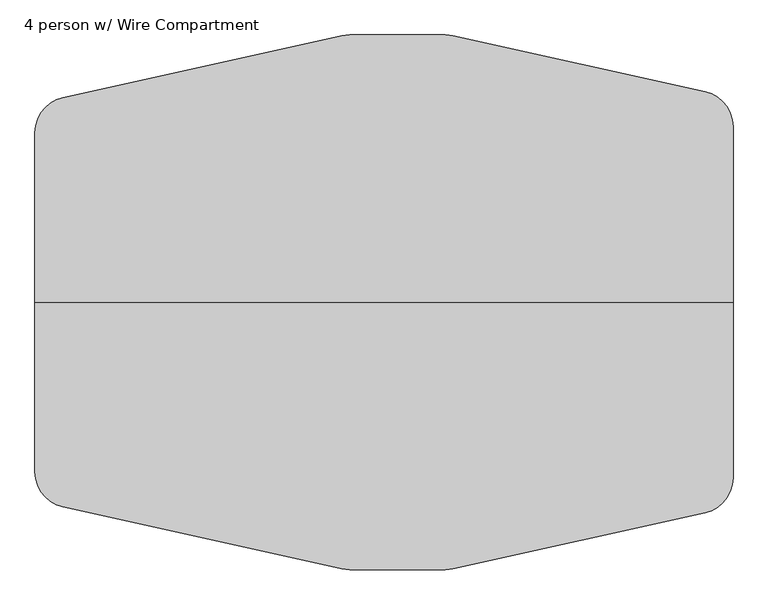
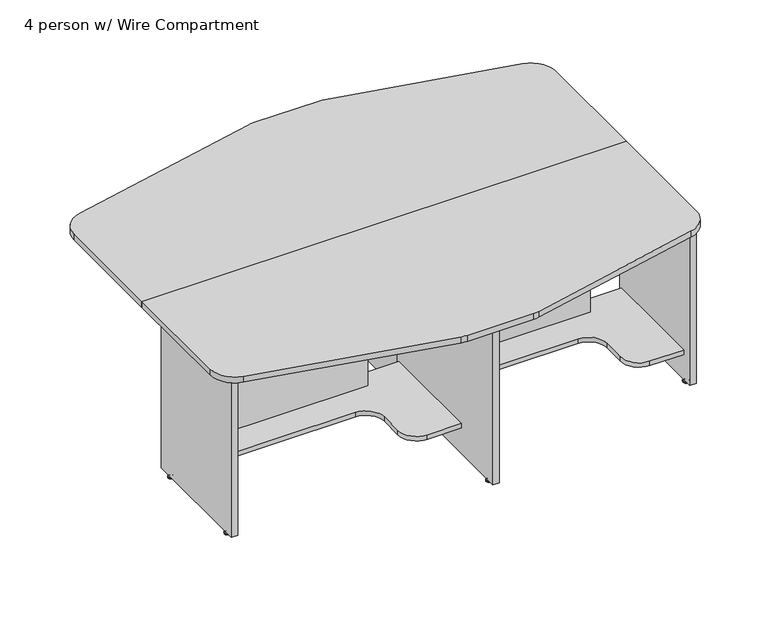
"""IFC4 building model written with IfcOpenShell, lengths in millimetres: furniture geometry, Nova Solutions - Collaboration Table - Boat_4-6 person : 4 person w/ Wire Compartment."""

from ifc_helpers import new_model, si_unit, point, frame, frame_2d, origin, place, context, project, spatial, polyline, circle_curve, ellipse_curve, trimmed, segment, composite_curve, outline, extrude, source, transform, mapped, element, save
from ifc_brep_helpers import plane_surface, cylinder_surface, revolved_surface, advanced_brep


def furniture_4_person_w_wire_compartment_91efd73a(model_context):
    return source(origin(), model_context, "Body", "SolidModel", [
        advanced_brep(
        [(6.6776506, 631.3859375, 11.1125), (0.0, 631.3859375, 11.1125), (-6.6776506, 631.3859375, 11.1125), (6.6776506, 631.3859375, 9.525), (-6.6776506, 631.3859375, 9.525), (11.8855135, 631.3859375, 4.7748687), (-11.8855135, 631.3859375, 4.7748687), (12.7466506, 631.3859375, 3.989419), (-12.7466506, 631.3859375, 3.989419), (12.7466506, 631.3859375, 3.175), (-12.7466506, 631.3859375, 3.175), (11.8959119, 631.3859375, 0.0), (-11.8959119, 631.3859375, 0.0), (0.0, 631.3859375, 0.0)],
        [
            (0, 1),
            (1, 2),
            (2, 0, circle_curve(frame((0.0, 631.3859375, 11.1125), z_axis=(0.0, 0.0, 1.0), x_axis=(-1.0, 0.0, 0.0)), 6.6776506)),
            (0, 2, circle_curve(frame((0.0, 631.3859375, 11.1125), z_axis=(0.0, 0.0, 1.0), x_axis=(-1.0, 0.0, 0.0)), 6.6776506)),
            (3, 0),
            (2, 4),
            (4, 3, circle_curve(frame((0.0, 631.3859375, 9.525), z_axis=(0.0, 0.0, 1.0), x_axis=(-1.0, 0.0, 0.0)), 6.6776506)),
            (3, 4, circle_curve(frame((0.0, 631.3859375, 9.525), z_axis=(0.0, 0.0, 1.0), x_axis=(-1.0, 0.0, 0.0)), 6.6776506)),
            (5, 3, circle_curve(frame((12.9320627, 631.3859375, 11.1521822), z_axis=(0.0, 1.0, 0.0), x_axis=(-1.0, 0.0, 0.0)), 6.462615)),
            (4, 6, circle_curve(frame((-12.9320627, 631.3859375, 11.1521822), z_axis=(0.0, 1.0, 0.0), x_axis=(1.0, 0.0, 0.0)), 6.462615)),
            (6, 5, circle_curve(frame((0.0, 631.3859375, 4.7748687), z_axis=(0.0, 0.0, 1.0), x_axis=(-1.0, 0.0, 0.0)), 11.8855135)),
            (5, 6, circle_curve(frame((0.0, 631.3859375, 4.7748687), z_axis=(0.0, 0.0, 1.0), x_axis=(-1.0, 0.0, 0.0)), 11.8855135)),
            (7, 5, circle_curve(frame((11.7124632, 631.3859375, 3.7203591), z_axis=(0.0, -1.0, 0.0), x_axis=(-1.0, 0.0, 0.0)), 1.0686145)),
            (6, 8, circle_curve(frame((-11.7124632, 631.3859375, 3.7203591), z_axis=(0.0, -1.0, 0.0), x_axis=(1.0, 0.0, 0.0)), 1.0686145)),
            (8, 7, circle_curve(frame((0.0, 631.3859375, 3.989419), z_axis=(0.0, 0.0, 1.0), x_axis=(-1.0, 0.0, 0.0)), 12.7466506)),
            (7, 8, circle_curve(frame((0.0, 631.3859375, 3.989419), z_axis=(0.0, 0.0, 1.0), x_axis=(-1.0, 0.0, 0.0)), 12.7466506)),
            (9, 7),
            (8, 10),
            (10, 9, circle_curve(frame((0.0, 631.3859375, 3.175), z_axis=(0.0, 0.0, 1.0), x_axis=(-1.0, 0.0, 0.0)), 12.7466506)),
            (9, 10, circle_curve(frame((0.0, 631.3859375, 3.175), z_axis=(0.0, 0.0, 1.0), x_axis=(-1.0, 0.0, 0.0)), 12.7466506)),
            (11, 9),
            (10, 12),
            (12, 11, circle_curve(frame((0.0, 631.3859375, 0.0), z_axis=(0.0, 0.0, 1.0), x_axis=(-1.0, 0.0, 0.0)), 11.8959119)),
            (11, 12, circle_curve(frame((0.0, 631.3859375, 0.0), z_axis=(0.0, 0.0, 1.0), x_axis=(-1.0, 0.0, 0.0)), 11.8959119)),
            (13, 11),
            (12, 13),
        ],
        [
            plane_surface(frame((0.0, 631.3859375, 11.1125), z_axis=(0.0, 0.0, 1.0), x_axis=(-1.0, 0.0, 0.0))),
            cylinder_surface(frame((0.0, 631.3859375, 43.2095994), z_axis=(0.0, 0.0, -1.0), x_axis=(-1.0, 0.0, 0.0)), 6.6776506),
            revolved_surface(trimmed(ellipse_curve(frame((-12.9320627, 631.3859375, 11.1521822), z_axis=(0.0, 1.0, 0.0), x_axis=(1.0, 0.0, 0.0)), 6.462615, 6.462615), [point((-6.6776506, 631.3859375, 9.525))], [point((-11.8855135, 631.3859375, 4.7748687))], True, "CARTESIAN"), (0.0, 631.3859375, 43.2095994), (0.0, 0.0, -1.0)),
            revolved_surface(trimmed(ellipse_curve(frame((-11.7124632, 631.3859375, 3.7203591), z_axis=(0.0, -1.0, 0.0), x_axis=(1.0, 0.0, 0.0)), 1.0686145, 1.0686145), [point((-11.8855135, 631.3859375, 4.7748687))], [point((-12.7466506, 631.3859375, 3.989419))], True, "CARTESIAN"), (0.0, 631.3859375, 43.2095994), (0.0, 0.0, -1.0)),
            cylinder_surface(frame((0.0, 631.3859375, 43.2095994), z_axis=(0.0, 0.0, -1.0), x_axis=(-1.0, 0.0, 0.0)), 12.7466506),
            revolved_surface(polyline([(-12.7466506, 631.3859375, 3.175), (-11.8959119, 631.3859375, 0.0)]), (0.0, 631.3859375, 43.2095994), (0.0, 0.0, -1.0)),
            plane_surface(frame((0.0, 631.3859375, 0.0), z_axis=(0.0, 0.0, -1.0), x_axis=(-1.0, 0.0, 0.0))),
        ],
        [
            (0, [[1, 2, 3]]),
            (0, [[-2, -1, 4]]),
            (1, [[5, -3, 6, 7]]),
            (1, [[-6, -4, -5, 8]]),
            (2, [[9, -7, 10, 11]]),
            (2, [[-10, -8, -9, 12]]),
            (3, [[13, -11, 14, 15]]),
            (3, [[-14, -12, -13, 16]]),
            (4, [[17, -15, 18, 19]]),
            (4, [[-18, -16, -17, 20]]),
            (5, [[21, -19, 22, 23]]),
            (5, [[-22, -20, -21, 24]]),
            (6, [[25, -23, 26]]),
            (6, [[-26, -24, -25]]),
        ],
    ),
        advanced_brep(
        [(6.6776506, 50.4140625, 11.1125), (0.0, 50.4140625, 11.1125), (-6.6776506, 50.4140625, 11.1125), (6.6776506, 50.4140625, 9.525), (-6.6776506, 50.4140625, 9.525), (11.8855135, 50.4140625, 4.7748687), (-11.8855135, 50.4140625, 4.7748687), (12.7466506, 50.4140625, 3.989419), (-12.7466506, 50.4140625, 3.989419), (12.7466506, 50.4140625, 3.175), (-12.7466506, 50.4140625, 3.175), (11.8959119, 50.4140625, 0.0), (-11.8959119, 50.4140625, 0.0), (0.0, 50.4140625, 0.0)],
        [
            (0, 1),
            (1, 2),
            (2, 0, circle_curve(frame((0.0, 50.4140625, 11.1125), z_axis=(0.0, 0.0, 1.0), x_axis=(-1.0, 0.0, 0.0)), 6.6776506)),
            (0, 2, circle_curve(frame((0.0, 50.4140625, 11.1125), z_axis=(0.0, 0.0, 1.0), x_axis=(-1.0, 0.0, 0.0)), 6.6776506)),
            (3, 0),
            (2, 4),
            (4, 3, circle_curve(frame((0.0, 50.4140625, 9.525), z_axis=(0.0, 0.0, 1.0), x_axis=(-1.0, 0.0, 0.0)), 6.6776506)),
            (3, 4, circle_curve(frame((0.0, 50.4140625, 9.525), z_axis=(0.0, 0.0, 1.0), x_axis=(-1.0, 0.0, 0.0)), 6.6776506)),
            (5, 3, circle_curve(frame((12.9320627, 50.4140625, 11.1521822), z_axis=(0.0, 1.0, 0.0), x_axis=(-1.0, 0.0, 0.0)), 6.462615)),
            (4, 6, circle_curve(frame((-12.9320627, 50.4140625, 11.1521822), z_axis=(0.0, 1.0, 0.0), x_axis=(1.0, 0.0, 0.0)), 6.462615)),
            (6, 5, circle_curve(frame((0.0, 50.4140625, 4.7748687), z_axis=(0.0, 0.0, 1.0), x_axis=(-1.0, 0.0, 0.0)), 11.8855135)),
            (5, 6, circle_curve(frame((0.0, 50.4140625, 4.7748687), z_axis=(0.0, 0.0, 1.0), x_axis=(-1.0, 0.0, 0.0)), 11.8855135)),
            (7, 5, circle_curve(frame((11.7124632, 50.4140625, 3.7203591), z_axis=(0.0, -1.0, 0.0), x_axis=(-1.0, 0.0, 0.0)), 1.0686145)),
            (6, 8, circle_curve(frame((-11.7124632, 50.4140625, 3.7203591), z_axis=(0.0, -1.0, 0.0), x_axis=(1.0, 0.0, 0.0)), 1.0686145)),
            (8, 7, circle_curve(frame((0.0, 50.4140625, 3.989419), z_axis=(0.0, 0.0, 1.0), x_axis=(-1.0, 0.0, 0.0)), 12.7466506)),
            (7, 8, circle_curve(frame((0.0, 50.4140625, 3.989419), z_axis=(0.0, 0.0, 1.0), x_axis=(-1.0, 0.0, 0.0)), 12.7466506)),
            (9, 7),
            (8, 10),
            (10, 9, circle_curve(frame((0.0, 50.4140625, 3.175), z_axis=(0.0, 0.0, 1.0), x_axis=(-1.0, 0.0, 0.0)), 12.7466506)),
            (9, 10, circle_curve(frame((0.0, 50.4140625, 3.175), z_axis=(0.0, 0.0, 1.0), x_axis=(-1.0, 0.0, 0.0)), 12.7466506)),
            (11, 9),
            (10, 12),
            (12, 11, circle_curve(frame((0.0, 50.4140625, 0.0), z_axis=(0.0, 0.0, 1.0), x_axis=(-1.0, 0.0, 0.0)), 11.8959119)),
            (11, 12, circle_curve(frame((0.0, 50.4140625, 0.0), z_axis=(0.0, 0.0, 1.0), x_axis=(-1.0, 0.0, 0.0)), 11.8959119)),
            (13, 11),
            (12, 13),
        ],
        [
            plane_surface(frame((0.0, 50.4140625, 11.1125), z_axis=(0.0, 0.0, 1.0), x_axis=(-1.0, 0.0, 0.0))),
            cylinder_surface(frame((0.0, 50.4140625, 43.2095994), z_axis=(0.0, 0.0, -1.0), x_axis=(-1.0, 0.0, 0.0)), 6.6776506),
            revolved_surface(trimmed(ellipse_curve(frame((-12.9320627, 50.4140625, 11.1521822), z_axis=(0.0, 1.0, 0.0), x_axis=(1.0, 0.0, 0.0)), 6.462615, 6.462615), [point((-6.6776506, 50.4140625, 9.525))], [point((-11.8855135, 50.4140625, 4.7748687))], True, "CARTESIAN"), (0.0, 50.4140625, 43.2095994), (0.0, 0.0, -1.0)),
            revolved_surface(trimmed(ellipse_curve(frame((-11.7124632, 50.4140625, 3.7203591), z_axis=(0.0, -1.0, 0.0), x_axis=(1.0, 0.0, 0.0)), 1.0686145, 1.0686145), [point((-11.8855135, 50.4140625, 4.7748687))], [point((-12.7466506, 50.4140625, 3.989419))], True, "CARTESIAN"), (0.0, 50.4140625, 43.2095994), (0.0, 0.0, -1.0)),
            cylinder_surface(frame((0.0, 50.4140625, 43.2095994), z_axis=(0.0, 0.0, -1.0), x_axis=(-1.0, 0.0, 0.0)), 12.7466506),
            revolved_surface(polyline([(-12.7466506, 50.4140625, 3.175), (-11.8959119, 50.4140625, 0.0)]), (0.0, 50.4140625, 43.2095994), (0.0, 0.0, -1.0)),
            plane_surface(frame((0.0, 50.4140625, 0.0), z_axis=(0.0, 0.0, -1.0), x_axis=(-1.0, 0.0, 0.0))),
        ],
        [
            (0, [[1, 2, 3]]),
            (0, [[-2, -1, 4]]),
            (1, [[5, -3, 6, 7]]),
            (1, [[-6, -4, -5, 8]]),
            (2, [[9, -7, 10, 11]]),
            (2, [[-10, -8, -9, 12]]),
            (3, [[13, -11, 14, 15]]),
            (3, [[-14, -12, -13, 16]]),
            (4, [[17, -15, 18, 19]]),
            (4, [[-18, -16, -17, 20]]),
            (5, [[21, -19, 22, 23]]),
            (5, [[-22, -20, -21, 24]]),
            (6, [[25, -23, 26]]),
            (6, [[-26, -24, -25]]),
        ],
    ),
        extrude(outline(polyline([(12.85, 1.4), (-12.85, 1.4), (-12.85, 680.4), (12.85, 680.4), (12.85, 1.4)])), frame((0.0, 0.0, 15.6), z_axis=(0.0, 0.0, 1.0), x_axis=(1.0, 0.0, 0.0)), (0.0, 0.0, 1.0), 720.7),
        extrude(outline(composite_curve([segment(trimmed(circle_curve(frame_2d((-163.1227993, 656.4)), 101.6), [point((-185.1130641, 755.5916743))], [point((-163.1227993, 758.0))], False, "CARTESIAN"), True, "CONTINUOUS"), segment(polyline([(-163.1227993, 758.0), (108.0350272, 758.0)]), True, "CONTINUOUS"), segment(trimmed(circle_curve(frame_2d((108.0350272, 656.4)), 101.6), [point((108.0350272, 758.0))], [point((130.025292, 755.5916743))], False, "CARTESIAN"), True, "CONTINUOUS"), segment(polyline([(130.025292, 755.5916743), (844.6402648, 597.165349)]), True, "CONTINUOUS"), segment(trimmed(circle_curve(frame_2d((822.65, 497.9736747)), 101.6), [point((844.6402648, 597.165349))], [point((924.25, 497.9736747))], False, "CARTESIAN"), True, "CONTINUOUS"), segment(polyline([(924.25, 497.9736747), (924.25, 0.0), (-1055.45, 0.0), (-1055.45, 481.1)]), True, "CONTINUOUS"), segment(trimmed(circle_curve(frame_2d((-953.85, 481.1)), 101.6), [point((-1055.45, 481.1))], [point((-975.8402648, 580.2916743))], False, "CARTESIAN"), True, "CONTINUOUS"), segment(polyline([(-975.8402648, 580.2916743), (-185.1130641, 755.5916743)]), True, "CONTINUOUS")], self_intersect=False)), frame((0.0, 0.0, 736.3), z_axis=(0.0, 0.0, 1.0), x_axis=(1.0, 0.0, 0.0)), (0.0, 0.0, 1.0), 25.7),
        extrude(outline(polyline([(145.5, 12.85), (145.5, 726.15), (507.4, 726.15), (507.4, 897.15), (736.3, 897.15), (736.3, 12.85), (145.5, 12.85)])), frame((0.0, -88.6, 0.0), z_axis=(0.0, 1.0, 0.0), x_axis=(0.0, 0.0, 1.0)), (0.0, 0.0, 1.0), 19.2),
        extrude(outline(composite_curve([segment(polyline([(897.15, -457.2625), (757.35, -457.2625)]), True, "CONTINUOUS"), segment(trimmed(circle_curve(frame_2d((757.35, -381.0625)), 76.2), [point((757.35, -457.2625))], [point((681.15, -381.0625))], False, "CARTESIAN"), True, "CONTINUOUS"), segment(polyline([(681.15, -381.0625), (681.15, -286.6)]), True, "CONTINUOUS"), segment(trimmed(circle_curve(frame_2d((604.95, -286.6)), 76.2), [point((681.15, -286.6))], [point((604.95, -210.4))], True, "CARTESIAN"), True, "CONTINUOUS"), segment(polyline([(604.95, -210.4), (12.85, -210.4), (12.85, -14.1), (897.15, -14.1), (897.15, -457.2625)]), True, "CONTINUOUS")], self_intersect=False)), frame((0.0, 0.0, 126.3), z_axis=(0.0, 0.0, 1.0), x_axis=(1.0, 0.0, 0.0)), (0.0, 0.0, 1.0), 19.2),
        advanced_brep(
        [(916.6776506, -448.9859375, 11.1125), (903.3223494, -448.9859375, 11.1125), (910.0, -448.9859375, 11.1125), (916.6776506, -448.9859375, 9.525), (903.3223494, -448.9859375, 9.525), (921.8855135, -448.9859375, 4.7748687), (898.1144865, -448.9859375, 4.7748687), (922.7466506, -448.9859375, 3.989419), (897.2533494, -448.9859375, 3.989419), (922.7466506, -448.9859375, 3.175), (897.2533494, -448.9859375, 3.175), (921.8959119, -448.9859375, 0.0), (898.1040881, -448.9859375, 0.0), (910.0, -448.9859375, 0.0)],
        [
            (0, 1, circle_curve(frame((910.0, -448.9859375, 11.1125), z_axis=(0.0, 0.0, 1.0), x_axis=(-1.0, 0.0, 0.0)), 6.6776506)),
            (1, 2),
            (2, 0),
            (1, 0, circle_curve(frame((910.0, -448.9859375, 11.1125), z_axis=(0.0, 0.0, 1.0), x_axis=(-1.0, 0.0, 0.0)), 6.6776506)),
            (3, 4, circle_curve(frame((910.0, -448.9859375, 9.525), z_axis=(0.0, 0.0, 1.0), x_axis=(-1.0, 0.0, 0.0)), 6.6776506)),
            (4, 1),
            (0, 3),
            (4, 3, circle_curve(frame((910.0, -448.9859375, 9.525), z_axis=(0.0, 0.0, 1.0), x_axis=(-1.0, 0.0, 0.0)), 6.6776506)),
            (5, 6, circle_curve(frame((910.0, -448.9859375, 4.7748687), z_axis=(0.0, 0.0, 1.0), x_axis=(-1.0, 0.0, 0.0)), 11.8855135)),
            (6, 4, circle_curve(frame((897.0679373, -448.9859375, 11.1521822), z_axis=(0.0, -1.0, 0.0), x_axis=(1.0, 0.0, 0.0)), 6.462615)),
            (3, 5, circle_curve(frame((922.9320627, -448.9859375, 11.1521822), z_axis=(0.0, -1.0, 0.0), x_axis=(-1.0, 0.0, 0.0)), 6.462615)),
            (6, 5, circle_curve(frame((910.0, -448.9859375, 4.7748687), z_axis=(0.0, 0.0, 1.0), x_axis=(-1.0, 0.0, 0.0)), 11.8855135)),
            (7, 8, circle_curve(frame((910.0, -448.9859375, 3.989419), z_axis=(0.0, 0.0, 1.0), x_axis=(-1.0, 0.0, 0.0)), 12.7466506)),
            (8, 6, circle_curve(frame((898.2875368, -448.9859375, 3.7203591), z_axis=(0.0, 1.0, 0.0), x_axis=(1.0, 0.0, 0.0)), 1.0686145)),
            (5, 7, circle_curve(frame((921.7124632, -448.9859375, 3.7203591), z_axis=(0.0, 1.0, 0.0), x_axis=(-1.0, 0.0, 0.0)), 1.0686145)),
            (8, 7, circle_curve(frame((910.0, -448.9859375, 3.989419), z_axis=(0.0, 0.0, 1.0), x_axis=(-1.0, 0.0, 0.0)), 12.7466506)),
            (9, 10, circle_curve(frame((910.0, -448.9859375, 3.175), z_axis=(0.0, 0.0, 1.0), x_axis=(-1.0, 0.0, 0.0)), 12.7466506)),
            (10, 8),
            (7, 9),
            (10, 9, circle_curve(frame((910.0, -448.9859375, 3.175), z_axis=(0.0, 0.0, 1.0), x_axis=(-1.0, 0.0, 0.0)), 12.7466506)),
            (11, 12, circle_curve(frame((910.0, -448.9859375, 0.0), z_axis=(0.0, 0.0, 1.0), x_axis=(-1.0, 0.0, 0.0)), 11.8959119)),
            (12, 10),
            (9, 11),
            (12, 11, circle_curve(frame((910.0, -448.9859375, 0.0), z_axis=(0.0, 0.0, 1.0), x_axis=(-1.0, 0.0, 0.0)), 11.8959119)),
            (13, 12),
            (11, 13),
        ],
        [
            plane_surface(frame((910.0, -448.9859375, 11.1125), z_axis=(0.0, 0.0, 1.0), x_axis=(-1.0, 0.0, 0.0))),
            cylinder_surface(frame((910.0, -448.9859375, 43.2095994), z_axis=(0.0, 0.0, -1.0), x_axis=(-1.0, 0.0, 0.0)), 6.6776506),
            revolved_surface(trimmed(ellipse_curve(frame((897.0679373, -448.9859375, 11.1521822), z_axis=(0.0, 1.0, 0.0), x_axis=(1.0, 0.0, 0.0)), 6.462615, 6.462615), [point((903.3223494, -448.9859375, 9.525))], [point((898.1144865, -448.9859375, 4.7748687))], True, "CARTESIAN"), (910.0, -448.9859375, 43.2095994), (0.0, 0.0, -1.0)),
            revolved_surface(trimmed(ellipse_curve(frame((898.2875368, -448.9859375, 3.7203591), z_axis=(0.0, -1.0, 0.0), x_axis=(1.0, 0.0, 0.0)), 1.0686145, 1.0686145), [point((898.1144865, -448.9859375, 4.7748687))], [point((897.2533494, -448.9859375, 3.989419))], True, "CARTESIAN"), (910.0, -448.9859375, 43.2095994), (0.0, 0.0, -1.0)),
            cylinder_surface(frame((910.0, -448.9859375, 43.2095994), z_axis=(0.0, 0.0, -1.0), x_axis=(-1.0, 0.0, 0.0)), 12.7466506),
            revolved_surface(polyline([(897.2533494, -448.9859375, 3.175), (898.1040881, -448.9859375, 0.0)]), (910.0, -448.9859375, 43.2095994), (0.0, 0.0, -1.0)),
            plane_surface(frame((910.0, -448.9859375, 0.0), z_axis=(0.0, 0.0, -1.0), x_axis=(-1.0, 0.0, 0.0))),
        ],
        [
            (0, [[1, 2, 3]]),
            (0, [[4, -3, -2]]),
            (1, [[5, 6, -1, 7]]),
            (1, [[8, -7, -4, -6]]),
            (2, [[9, 10, -5, 11]]),
            (2, [[12, -11, -8, -10]]),
            (3, [[13, 14, -9, 15]]),
            (3, [[16, -15, -12, -14]]),
            (4, [[17, 18, -13, 19]]),
            (4, [[20, -19, -16, -18]]),
            (5, [[21, 22, -17, 23]]),
            (5, [[24, -23, -20, -22]]),
            (6, [[25, -21, 26]]),
            (6, [[-26, -24, -25]]),
        ],
    ),
        advanced_brep(
        [(916.6776506, -50.4140625, 11.1125), (903.3223494, -50.4140625, 11.1125), (910.0, -50.4140625, 11.1125), (916.6776506, -50.4140625, 9.525), (903.3223494, -50.4140625, 9.525), (921.8855135, -50.4140625, 4.7748687), (898.1144865, -50.4140625, 4.7748687), (922.7466506, -50.4140625, 3.989419), (897.2533494, -50.4140625, 3.989419), (922.7466506, -50.4140625, 3.175), (897.2533494, -50.4140625, 3.175), (921.8959119, -50.4140625, 0.0), (898.1040881, -50.4140625, 0.0), (910.0, -50.4140625, 0.0)],
        [
            (0, 1, circle_curve(frame((910.0, -50.4140625, 11.1125), z_axis=(0.0, 0.0, 1.0), x_axis=(-1.0, 0.0, 0.0)), 6.6776506)),
            (1, 2),
            (2, 0),
            (1, 0, circle_curve(frame((910.0, -50.4140625, 11.1125), z_axis=(0.0, 0.0, 1.0), x_axis=(-1.0, 0.0, 0.0)), 6.6776506)),
            (3, 4, circle_curve(frame((910.0, -50.4140625, 9.525), z_axis=(0.0, 0.0, 1.0), x_axis=(-1.0, 0.0, 0.0)), 6.6776506)),
            (4, 1),
            (0, 3),
            (4, 3, circle_curve(frame((910.0, -50.4140625, 9.525), z_axis=(0.0, 0.0, 1.0), x_axis=(-1.0, 0.0, 0.0)), 6.6776506)),
            (5, 6, circle_curve(frame((910.0, -50.4140625, 4.7748687), z_axis=(0.0, 0.0, 1.0), x_axis=(-1.0, 0.0, 0.0)), 11.8855135)),
            (6, 4, circle_curve(frame((897.0679373, -50.4140625, 11.1521822), z_axis=(0.0, -1.0, 0.0), x_axis=(1.0, 0.0, 0.0)), 6.462615)),
            (3, 5, circle_curve(frame((922.9320627, -50.4140625, 11.1521822), z_axis=(0.0, -1.0, 0.0), x_axis=(-1.0, 0.0, 0.0)), 6.462615)),
            (6, 5, circle_curve(frame((910.0, -50.4140625, 4.7748687), z_axis=(0.0, 0.0, 1.0), x_axis=(-1.0, 0.0, 0.0)), 11.8855135)),
            (7, 8, circle_curve(frame((910.0, -50.4140625, 3.989419), z_axis=(0.0, 0.0, 1.0), x_axis=(-1.0, 0.0, 0.0)), 12.7466506)),
            (8, 6, circle_curve(frame((898.2875368, -50.4140625, 3.7203591), z_axis=(0.0, 1.0, 0.0), x_axis=(1.0, 0.0, 0.0)), 1.0686145)),
            (5, 7, circle_curve(frame((921.7124632, -50.4140625, 3.7203591), z_axis=(0.0, 1.0, 0.0), x_axis=(-1.0, 0.0, 0.0)), 1.0686145)),
            (8, 7, circle_curve(frame((910.0, -50.4140625, 3.989419), z_axis=(0.0, 0.0, 1.0), x_axis=(-1.0, 0.0, 0.0)), 12.7466506)),
            (9, 10, circle_curve(frame((910.0, -50.4140625, 3.175), z_axis=(0.0, 0.0, 1.0), x_axis=(-1.0, 0.0, 0.0)), 12.7466506)),
            (10, 8),
            (7, 9),
            (10, 9, circle_curve(frame((910.0, -50.4140625, 3.175), z_axis=(0.0, 0.0, 1.0), x_axis=(-1.0, 0.0, 0.0)), 12.7466506)),
            (11, 12, circle_curve(frame((910.0, -50.4140625, 0.0), z_axis=(0.0, 0.0, 1.0), x_axis=(-1.0, 0.0, 0.0)), 11.8959119)),
            (12, 10),
            (9, 11),
            (12, 11, circle_curve(frame((910.0, -50.4140625, 0.0), z_axis=(0.0, 0.0, 1.0), x_axis=(-1.0, 0.0, 0.0)), 11.8959119)),
            (13, 12),
            (11, 13),
        ],
        [
            plane_surface(frame((910.0, -50.4140625, 11.1125), z_axis=(0.0, 0.0, 1.0), x_axis=(-1.0, 0.0, 0.0))),
            cylinder_surface(frame((910.0, -50.4140625, 43.2095994), z_axis=(0.0, 0.0, -1.0), x_axis=(-1.0, 0.0, 0.0)), 6.6776506),
            revolved_surface(trimmed(ellipse_curve(frame((897.0679373, -50.4140625, 11.1521822), z_axis=(0.0, 1.0, 0.0), x_axis=(1.0, 0.0, 0.0)), 6.462615, 6.462615), [point((903.3223494, -50.4140625, 9.525))], [point((898.1144865, -50.4140625, 4.7748687))], True, "CARTESIAN"), (910.0, -50.4140625, 43.2095994), (0.0, 0.0, -1.0)),
            revolved_surface(trimmed(ellipse_curve(frame((898.2875368, -50.4140625, 3.7203591), z_axis=(0.0, -1.0, 0.0), x_axis=(1.0, 0.0, 0.0)), 1.0686145, 1.0686145), [point((898.1144865, -50.4140625, 4.7748687))], [point((897.2533494, -50.4140625, 3.989419))], True, "CARTESIAN"), (910.0, -50.4140625, 43.2095994), (0.0, 0.0, -1.0)),
            cylinder_surface(frame((910.0, -50.4140625, 43.2095994), z_axis=(0.0, 0.0, -1.0), x_axis=(-1.0, 0.0, 0.0)), 12.7466506),
            revolved_surface(polyline([(897.2533494, -50.4140625, 3.175), (898.1040881, -50.4140625, 0.0)]), (910.0, -50.4140625, 43.2095994), (0.0, 0.0, -1.0)),
            plane_surface(frame((910.0, -50.4140625, 0.0), z_axis=(0.0, 0.0, -1.0), x_axis=(-1.0, 0.0, 0.0))),
        ],
        [
            (0, [[1, 2, 3]]),
            (0, [[4, -3, -2]]),
            (1, [[5, 6, -1, 7]]),
            (1, [[8, -7, -4, -6]]),
            (2, [[9, 10, -5, 11]]),
            (2, [[12, -11, -8, -10]]),
            (3, [[13, 14, -9, 15]]),
            (3, [[16, -15, -12, -14]]),
            (4, [[17, 18, -13, 19]]),
            (4, [[20, -19, -16, -18]]),
            (5, [[21, 22, -17, 23]]),
            (5, [[24, -23, -20, -22]]),
            (6, [[25, -21, 26]]),
            (6, [[-26, -24, -25]]),
        ],
    ),
        extrude(outline(polyline([(922.85, -1.4), (922.85, -498.0), (897.15, -498.0), (897.15, -1.4), (922.85, -1.4)])), frame((0.0, 0.0, 15.6), z_axis=(0.0, 0.0, 1.0), x_axis=(1.0, 0.0, 0.0)), (0.0, 0.0, 1.0), 720.7),
        extrude(outline(polyline([(736.3, -952.15), (145.5, -952.15), (145.5, -183.85), (507.4, -183.85), (507.4, -12.85), (736.3, -12.85), (736.3, -952.15)])), frame((0.0, -88.6, 0.0), z_axis=(0.0, 1.0, 0.0), x_axis=(0.0, 0.0, 1.0)), (0.0, 0.0, 1.0), 19.2),
        extrude(outline(composite_curve([segment(polyline([(-952.15, -14.1), (-12.85, -14.1), (-12.85, -457.2625), (-152.65, -457.2625)]), True, "CONTINUOUS"), segment(trimmed(circle_curve(frame_2d((-152.65, -381.0625)), 76.2), [point((-152.65, -457.2625))], [point((-228.85, -381.0625))], False, "CARTESIAN"), True, "CONTINUOUS"), segment(polyline([(-228.85, -381.0625), (-228.85, -286.6)]), True, "CONTINUOUS"), segment(trimmed(circle_curve(frame_2d((-305.05, -286.6)), 76.2), [point((-228.85, -286.6))], [point((-305.05, -210.4))], True, "CARTESIAN"), True, "CONTINUOUS"), segment(polyline([(-305.05, -210.4), (-952.15, -210.4), (-952.15, -14.1)]), True, "CONTINUOUS")], self_intersect=False)), frame((0.0, 0.0, 126.3), z_axis=(0.0, 0.0, 1.0), x_axis=(1.0, 0.0, 0.0)), (0.0, 0.0, 1.0), 19.2),
        advanced_brep(
        [(-971.6776506, -448.9859375, 11.1125), (-965.0, -448.9859375, 11.1125), (-958.3223494, -448.9859375, 11.1125), (-971.6776506, -448.9859375, 9.525), (-958.3223494, -448.9859375, 9.525), (-976.8855135, -448.9859375, 4.7748687), (-953.1144865, -448.9859375, 4.7748687), (-977.7466506, -448.9859375, 3.989419), (-952.2533494, -448.9859375, 3.989419), (-977.7466506, -448.9859375, 3.175), (-952.2533494, -448.9859375, 3.175), (-976.8959119, -448.9859375, 0.0), (-953.1040881, -448.9859375, 0.0), (-965.0, -448.9859375, 0.0)],
        [
            (0, 1),
            (1, 2),
            (2, 0, circle_curve(frame((-965.0, -448.9859375, 11.1125), z_axis=(0.0, 0.0, 1.0), x_axis=(1.0, 0.0, 0.0)), 6.6776506)),
            (0, 2, circle_curve(frame((-965.0, -448.9859375, 11.1125), z_axis=(0.0, 0.0, 1.0), x_axis=(1.0, 0.0, 0.0)), 6.6776506)),
            (3, 0),
            (2, 4),
            (4, 3, circle_curve(frame((-965.0, -448.9859375, 9.525), z_axis=(0.0, 0.0, 1.0), x_axis=(1.0, 0.0, 0.0)), 6.6776506)),
            (3, 4, circle_curve(frame((-965.0, -448.9859375, 9.525), z_axis=(0.0, 0.0, 1.0), x_axis=(1.0, 0.0, 0.0)), 6.6776506)),
            (5, 3, circle_curve(frame((-977.9320627, -448.9859375, 11.1521822), z_axis=(0.0, -1.0, 0.0), x_axis=(1.0, 0.0, 0.0)), 6.462615)),
            (4, 6, circle_curve(frame((-952.0679373, -448.9859375, 11.1521822), z_axis=(0.0, -1.0, 0.0), x_axis=(-1.0, 0.0, 0.0)), 6.462615)),
            (6, 5, circle_curve(frame((-965.0, -448.9859375, 4.7748687), z_axis=(0.0, 0.0, 1.0), x_axis=(1.0, 0.0, 0.0)), 11.8855135)),
            (5, 6, circle_curve(frame((-965.0, -448.9859375, 4.7748687), z_axis=(0.0, 0.0, 1.0), x_axis=(1.0, 0.0, 0.0)), 11.8855135)),
            (7, 5, circle_curve(frame((-976.7124632, -448.9859375, 3.7203591), z_axis=(0.0, 1.0, 0.0), x_axis=(1.0, 0.0, 0.0)), 1.0686145)),
            (6, 8, circle_curve(frame((-953.2875368, -448.9859375, 3.7203591), z_axis=(0.0, 1.0, 0.0), x_axis=(-1.0, 0.0, 0.0)), 1.0686145)),
            (8, 7, circle_curve(frame((-965.0, -448.9859375, 3.989419), z_axis=(0.0, 0.0, 1.0), x_axis=(1.0, 0.0, 0.0)), 12.7466506)),
            (7, 8, circle_curve(frame((-965.0, -448.9859375, 3.989419), z_axis=(0.0, 0.0, 1.0), x_axis=(1.0, 0.0, 0.0)), 12.7466506)),
            (9, 7),
            (8, 10),
            (10, 9, circle_curve(frame((-965.0, -448.9859375, 3.175), z_axis=(0.0, 0.0, 1.0), x_axis=(1.0, 0.0, 0.0)), 12.7466506)),
            (9, 10, circle_curve(frame((-965.0, -448.9859375, 3.175), z_axis=(0.0, 0.0, 1.0), x_axis=(1.0, 0.0, 0.0)), 12.7466506)),
            (11, 9),
            (10, 12),
            (12, 11, circle_curve(frame((-965.0, -448.9859375, 0.0), z_axis=(0.0, 0.0, 1.0), x_axis=(1.0, 0.0, 0.0)), 11.8959119)),
            (11, 12, circle_curve(frame((-965.0, -448.9859375, 0.0), z_axis=(0.0, 0.0, 1.0), x_axis=(1.0, 0.0, 0.0)), 11.8959119)),
            (13, 11),
            (12, 13),
        ],
        [
            plane_surface(frame((-965.0, -448.9859375, 11.1125), z_axis=(0.0, 0.0, 1.0), x_axis=(1.0, 0.0, 0.0))),
            cylinder_surface(frame((-965.0, -448.9859375, 43.2095994), z_axis=(0.0, 0.0, -1.0), x_axis=(1.0, 0.0, 0.0)), 6.6776506),
            revolved_surface(trimmed(ellipse_curve(frame((-952.0679373, -448.9859375, 11.1521822), z_axis=(0.0, -1.0, 0.0), x_axis=(-1.0, 0.0, 0.0)), 6.462615, 6.462615), [point((-958.3223494, -448.9859375, 9.525))], [point((-953.1144865, -448.9859375, 4.7748687))], True, "CARTESIAN"), (-965.0, -448.9859375, 43.2095994), (0.0, 0.0, -1.0)),
            revolved_surface(trimmed(ellipse_curve(frame((-953.2875368, -448.9859375, 3.7203591), z_axis=(0.0, 1.0, 0.0), x_axis=(-1.0, 0.0, 0.0)), 1.0686145, 1.0686145), [point((-953.1144865, -448.9859375, 4.7748687))], [point((-952.2533494, -448.9859375, 3.989419))], True, "CARTESIAN"), (-965.0, -448.9859375, 43.2095994), (0.0, 0.0, -1.0)),
            cylinder_surface(frame((-965.0, -448.9859375, 43.2095994), z_axis=(0.0, 0.0, -1.0), x_axis=(1.0, 0.0, 0.0)), 12.7466506),
            revolved_surface(polyline([(-952.2533494, -448.9859375, 3.175), (-953.1040881, -448.9859375, 0.0)]), (-965.0, -448.9859375, 43.2095994), (0.0, 0.0, -1.0)),
            plane_surface(frame((-965.0, -448.9859375, 0.0), z_axis=(0.0, 0.0, -1.0), x_axis=(1.0, 0.0, 0.0))),
        ],
        [
            (0, [[1, 2, 3]]),
            (0, [[-2, -1, 4]]),
            (1, [[5, -3, 6, 7]]),
            (1, [[-6, -4, -5, 8]]),
            (2, [[9, -7, 10, 11]]),
            (2, [[-10, -8, -9, 12]]),
            (3, [[13, -11, 14, 15]]),
            (3, [[-14, -12, -13, 16]]),
            (4, [[17, -15, 18, 19]]),
            (4, [[-18, -16, -17, 20]]),
            (5, [[21, -19, 22, 23]]),
            (5, [[-22, -20, -21, 24]]),
            (6, [[25, -23, 26]]),
            (6, [[-26, -24, -25]]),
        ],
    ),
        advanced_brep(
        [(-971.6776506, -50.4140625, 11.1125), (-965.0, -50.4140625, 11.1125), (-958.3223494, -50.4140625, 11.1125), (-971.6776506, -50.4140625, 9.525), (-958.3223494, -50.4140625, 9.525), (-976.8855135, -50.4140625, 4.7748687), (-953.1144865, -50.4140625, 4.7748687), (-977.7466506, -50.4140625, 3.989419), (-952.2533494, -50.4140625, 3.989419), (-977.7466506, -50.4140625, 3.175), (-952.2533494, -50.4140625, 3.175), (-976.8959119, -50.4140625, 0.0), (-953.1040881, -50.4140625, 0.0), (-965.0, -50.4140625, 0.0)],
        [
            (0, 1),
            (1, 2),
            (2, 0, circle_curve(frame((-965.0, -50.4140625, 11.1125), z_axis=(0.0, 0.0, 1.0), x_axis=(1.0, 0.0, 0.0)), 6.6776506)),
            (0, 2, circle_curve(frame((-965.0, -50.4140625, 11.1125), z_axis=(0.0, 0.0, 1.0), x_axis=(1.0, 0.0, 0.0)), 6.6776506)),
            (3, 0),
            (2, 4),
            (4, 3, circle_curve(frame((-965.0, -50.4140625, 9.525), z_axis=(0.0, 0.0, 1.0), x_axis=(1.0, 0.0, 0.0)), 6.6776506)),
            (3, 4, circle_curve(frame((-965.0, -50.4140625, 9.525), z_axis=(0.0, 0.0, 1.0), x_axis=(1.0, 0.0, 0.0)), 6.6776506)),
            (5, 3, circle_curve(frame((-977.9320627, -50.4140625, 11.1521822), z_axis=(0.0, -1.0, 0.0), x_axis=(1.0, 0.0, 0.0)), 6.462615)),
            (4, 6, circle_curve(frame((-952.0679373, -50.4140625, 11.1521822), z_axis=(0.0, -1.0, 0.0), x_axis=(-1.0, 0.0, 0.0)), 6.462615)),
            (6, 5, circle_curve(frame((-965.0, -50.4140625, 4.7748687), z_axis=(0.0, 0.0, 1.0), x_axis=(1.0, 0.0, 0.0)), 11.8855135)),
            (5, 6, circle_curve(frame((-965.0, -50.4140625, 4.7748687), z_axis=(0.0, 0.0, 1.0), x_axis=(1.0, 0.0, 0.0)), 11.8855135)),
            (7, 5, circle_curve(frame((-976.7124632, -50.4140625, 3.7203591), z_axis=(0.0, 1.0, 0.0), x_axis=(1.0, 0.0, 0.0)), 1.0686145)),
            (6, 8, circle_curve(frame((-953.2875368, -50.4140625, 3.7203591), z_axis=(0.0, 1.0, 0.0), x_axis=(-1.0, 0.0, 0.0)), 1.0686145)),
            (8, 7, circle_curve(frame((-965.0, -50.4140625, 3.989419), z_axis=(0.0, 0.0, 1.0), x_axis=(1.0, 0.0, 0.0)), 12.7466506)),
            (7, 8, circle_curve(frame((-965.0, -50.4140625, 3.989419), z_axis=(0.0, 0.0, 1.0), x_axis=(1.0, 0.0, 0.0)), 12.7466506)),
            (9, 7),
            (8, 10),
            (10, 9, circle_curve(frame((-965.0, -50.4140625, 3.175), z_axis=(0.0, 0.0, 1.0), x_axis=(1.0, 0.0, 0.0)), 12.7466506)),
            (9, 10, circle_curve(frame((-965.0, -50.4140625, 3.175), z_axis=(0.0, 0.0, 1.0), x_axis=(1.0, 0.0, 0.0)), 12.7466506)),
            (11, 9),
            (10, 12),
            (12, 11, circle_curve(frame((-965.0, -50.4140625, 0.0), z_axis=(0.0, 0.0, 1.0), x_axis=(1.0, 0.0, 0.0)), 11.8959119)),
            (11, 12, circle_curve(frame((-965.0, -50.4140625, 0.0), z_axis=(0.0, 0.0, 1.0), x_axis=(1.0, 0.0, 0.0)), 11.8959119)),
            (13, 11),
            (12, 13),
        ],
        [
            plane_surface(frame((-965.0, -50.4140625, 11.1125), z_axis=(0.0, 0.0, 1.0), x_axis=(1.0, 0.0, 0.0))),
            cylinder_surface(frame((-965.0, -50.4140625, 43.2095994), z_axis=(0.0, 0.0, -1.0), x_axis=(1.0, 0.0, 0.0)), 6.6776506),
            revolved_surface(trimmed(ellipse_curve(frame((-952.0679373, -50.4140625, 11.1521822), z_axis=(0.0, -1.0, 0.0), x_axis=(-1.0, 0.0, 0.0)), 6.462615, 6.462615), [point((-958.3223494, -50.4140625, 9.525))], [point((-953.1144865, -50.4140625, 4.7748687))], True, "CARTESIAN"), (-965.0, -50.4140625, 43.2095994), (0.0, 0.0, -1.0)),
            revolved_surface(trimmed(ellipse_curve(frame((-953.2875368, -50.4140625, 3.7203591), z_axis=(0.0, 1.0, 0.0), x_axis=(-1.0, 0.0, 0.0)), 1.0686145, 1.0686145), [point((-953.1144865, -50.4140625, 4.7748687))], [point((-952.2533494, -50.4140625, 3.989419))], True, "CARTESIAN"), (-965.0, -50.4140625, 43.2095994), (0.0, 0.0, -1.0)),
            cylinder_surface(frame((-965.0, -50.4140625, 43.2095994), z_axis=(0.0, 0.0, -1.0), x_axis=(1.0, 0.0, 0.0)), 12.7466506),
            revolved_surface(polyline([(-952.2533494, -50.4140625, 3.175), (-953.1040881, -50.4140625, 0.0)]), (-965.0, -50.4140625, 43.2095994), (0.0, 0.0, -1.0)),
            plane_surface(frame((-965.0, -50.4140625, 0.0), z_axis=(0.0, 0.0, -1.0), x_axis=(1.0, 0.0, 0.0))),
        ],
        [
            (0, [[1, 2, 3]]),
            (0, [[-2, -1, 4]]),
            (1, [[5, -3, 6, 7]]),
            (1, [[-6, -4, -5, 8]]),
            (2, [[9, -7, 10, 11]]),
            (2, [[-10, -8, -9, 12]]),
            (3, [[13, -11, 14, 15]]),
            (3, [[-14, -12, -13, 16]]),
            (4, [[17, -15, 18, 19]]),
            (4, [[-18, -16, -17, 20]]),
            (5, [[21, -19, 22, 23]]),
            (5, [[-22, -20, -21, 24]]),
            (6, [[25, -23, 26]]),
            (6, [[-26, -24, -25]]),
        ],
    ),
        extrude(outline(polyline([(-977.85, -1.4), (-952.15, -1.4), (-952.15, -498.0), (-977.85, -498.0), (-977.85, -1.4)])), frame((0.0, 0.0, 15.6), z_axis=(0.0, 0.0, 1.0), x_axis=(1.0, 0.0, 0.0)), (0.0, 0.0, 1.0), 720.7),
        advanced_brep(
        [(6.6776506, -631.3859375, 11.1125), (-6.6776506, -631.3859375, 11.1125), (0.0, -631.3859375, 11.1125), (6.6776506, -631.3859375, 9.525), (-6.6776506, -631.3859375, 9.525), (11.8855135, -631.3859375, 4.7748687), (-11.8855135, -631.3859375, 4.7748687), (12.7466506, -631.3859375, 3.989419), (-12.7466506, -631.3859375, 3.989419), (12.7466506, -631.3859375, 3.175), (-12.7466506, -631.3859375, 3.175), (11.8959119, -631.3859375, 0.0), (-11.8959119, -631.3859375, 0.0), (0.0, -631.3859375, 0.0)],
        [
            (0, 1, circle_curve(frame((0.0, -631.3859375, 11.1125), z_axis=(0.0, 0.0, 1.0), x_axis=(-1.0, 0.0, 0.0)), 6.6776506)),
            (1, 2),
            (2, 0),
            (1, 0, circle_curve(frame((0.0, -631.3859375, 11.1125), z_axis=(0.0, 0.0, 1.0), x_axis=(-1.0, 0.0, 0.0)), 6.6776506)),
            (3, 4, circle_curve(frame((0.0, -631.3859375, 9.525), z_axis=(0.0, 0.0, 1.0), x_axis=(-1.0, 0.0, 0.0)), 6.6776506)),
            (4, 1),
            (0, 3),
            (4, 3, circle_curve(frame((0.0, -631.3859375, 9.525), z_axis=(0.0, 0.0, 1.0), x_axis=(-1.0, 0.0, 0.0)), 6.6776506)),
            (5, 6, circle_curve(frame((0.0, -631.3859375, 4.7748687), z_axis=(0.0, 0.0, 1.0), x_axis=(-1.0, 0.0, 0.0)), 11.8855135)),
            (6, 4, circle_curve(frame((-12.9320627, -631.3859375, 11.1521822), z_axis=(0.0, -1.0, 0.0), x_axis=(1.0, 0.0, 0.0)), 6.462615)),
            (3, 5, circle_curve(frame((12.9320627, -631.3859375, 11.1521822), z_axis=(0.0, -1.0, 0.0), x_axis=(-1.0, 0.0, 0.0)), 6.462615)),
            (6, 5, circle_curve(frame((0.0, -631.3859375, 4.7748687), z_axis=(0.0, 0.0, 1.0), x_axis=(-1.0, 0.0, 0.0)), 11.8855135)),
            (7, 8, circle_curve(frame((0.0, -631.3859375, 3.989419), z_axis=(0.0, 0.0, 1.0), x_axis=(-1.0, 0.0, 0.0)), 12.7466506)),
            (8, 6, circle_curve(frame((-11.7124632, -631.3859375, 3.7203591), z_axis=(0.0, 1.0, 0.0), x_axis=(1.0, 0.0, 0.0)), 1.0686145)),
            (5, 7, circle_curve(frame((11.7124632, -631.3859375, 3.7203591), z_axis=(0.0, 1.0, 0.0), x_axis=(-1.0, 0.0, 0.0)), 1.0686145)),
            (8, 7, circle_curve(frame((0.0, -631.3859375, 3.989419), z_axis=(0.0, 0.0, 1.0), x_axis=(-1.0, 0.0, 0.0)), 12.7466506)),
            (9, 10, circle_curve(frame((0.0, -631.3859375, 3.175), z_axis=(0.0, 0.0, 1.0), x_axis=(-1.0, 0.0, 0.0)), 12.7466506)),
            (10, 8),
            (7, 9),
            (10, 9, circle_curve(frame((0.0, -631.3859375, 3.175), z_axis=(0.0, 0.0, 1.0), x_axis=(-1.0, 0.0, 0.0)), 12.7466506)),
            (11, 12, circle_curve(frame((0.0, -631.3859375, 0.0), z_axis=(0.0, 0.0, 1.0), x_axis=(-1.0, 0.0, 0.0)), 11.8959119)),
            (12, 10),
            (9, 11),
            (12, 11, circle_curve(frame((0.0, -631.3859375, 0.0), z_axis=(0.0, 0.0, 1.0), x_axis=(-1.0, 0.0, 0.0)), 11.8959119)),
            (13, 12),
            (11, 13),
        ],
        [
            plane_surface(frame((0.0, -631.3859375, 11.1125), z_axis=(0.0, 0.0, 1.0), x_axis=(-1.0, 0.0, 0.0))),
            cylinder_surface(frame((0.0, -631.3859375, 43.2095994), z_axis=(0.0, 0.0, -1.0), x_axis=(-1.0, 0.0, 0.0)), 6.6776506),
            revolved_surface(trimmed(ellipse_curve(frame((-12.9320627, -631.3859375, 11.1521822), z_axis=(0.0, 1.0, 0.0), x_axis=(1.0, 0.0, 0.0)), 6.462615, 6.462615), [point((-6.6776506, -631.3859375, 9.525))], [point((-11.8855135, -631.3859375, 4.7748687))], True, "CARTESIAN"), (0.0, -631.3859375, 43.2095994), (0.0, 0.0, -1.0)),
            revolved_surface(trimmed(ellipse_curve(frame((-11.7124632, -631.3859375, 3.7203591), z_axis=(0.0, -1.0, 0.0), x_axis=(1.0, 0.0, 0.0)), 1.0686145, 1.0686145), [point((-11.8855135, -631.3859375, 4.7748687))], [point((-12.7466506, -631.3859375, 3.989419))], True, "CARTESIAN"), (0.0, -631.3859375, 43.2095994), (0.0, 0.0, -1.0)),
            cylinder_surface(frame((0.0, -631.3859375, 43.2095994), z_axis=(0.0, 0.0, -1.0), x_axis=(-1.0, 0.0, 0.0)), 12.7466506),
            revolved_surface(polyline([(-12.7466506, -631.3859375, 3.175), (-11.8959119, -631.3859375, 0.0)]), (0.0, -631.3859375, 43.2095994), (0.0, 0.0, -1.0)),
            plane_surface(frame((0.0, -631.3859375, 0.0), z_axis=(0.0, 0.0, -1.0), x_axis=(-1.0, 0.0, 0.0))),
        ],
        [
            (0, [[1, 2, 3]]),
            (0, [[4, -3, -2]]),
            (1, [[5, 6, -1, 7]]),
            (1, [[8, -7, -4, -6]]),
            (2, [[9, 10, -5, 11]]),
            (2, [[12, -11, -8, -10]]),
            (3, [[13, 14, -9, 15]]),
            (3, [[16, -15, -12, -14]]),
            (4, [[17, 18, -13, 19]]),
            (4, [[20, -19, -16, -18]]),
            (5, [[21, 22, -17, 23]]),
            (5, [[24, -23, -20, -22]]),
            (6, [[25, -21, 26]]),
            (6, [[-26, -24, -25]]),
        ],
    ),
        advanced_brep(
        [(6.6776506, -50.4140625, 11.1125), (-6.6776506, -50.4140625, 11.1125), (0.0, -50.4140625, 11.1125), (6.6776506, -50.4140625, 9.525), (-6.6776506, -50.4140625, 9.525), (11.8855135, -50.4140625, 4.7748687), (-11.8855135, -50.4140625, 4.7748687), (12.7466506, -50.4140625, 3.989419), (-12.7466506, -50.4140625, 3.989419), (12.7466506, -50.4140625, 3.175), (-12.7466506, -50.4140625, 3.175), (11.8959119, -50.4140625, 0.0), (-11.8959119, -50.4140625, 0.0), (0.0, -50.4140625, 0.0)],
        [
            (0, 1, circle_curve(frame((0.0, -50.4140625, 11.1125), z_axis=(0.0, 0.0, 1.0), x_axis=(-1.0, 0.0, 0.0)), 6.6776506)),
            (1, 2),
            (2, 0),
            (1, 0, circle_curve(frame((0.0, -50.4140625, 11.1125), z_axis=(0.0, 0.0, 1.0), x_axis=(-1.0, 0.0, 0.0)), 6.6776506)),
            (3, 4, circle_curve(frame((0.0, -50.4140625, 9.525), z_axis=(0.0, 0.0, 1.0), x_axis=(-1.0, 0.0, 0.0)), 6.6776506)),
            (4, 1),
            (0, 3),
            (4, 3, circle_curve(frame((0.0, -50.4140625, 9.525), z_axis=(0.0, 0.0, 1.0), x_axis=(-1.0, 0.0, 0.0)), 6.6776506)),
            (5, 6, circle_curve(frame((0.0, -50.4140625, 4.7748687), z_axis=(0.0, 0.0, 1.0), x_axis=(-1.0, 0.0, 0.0)), 11.8855135)),
            (6, 4, circle_curve(frame((-12.9320627, -50.4140625, 11.1521822), z_axis=(0.0, -1.0, 0.0), x_axis=(1.0, 0.0, 0.0)), 6.462615)),
            (3, 5, circle_curve(frame((12.9320627, -50.4140625, 11.1521822), z_axis=(0.0, -1.0, 0.0), x_axis=(-1.0, 0.0, 0.0)), 6.462615)),
            (6, 5, circle_curve(frame((0.0, -50.4140625, 4.7748687), z_axis=(0.0, 0.0, 1.0), x_axis=(-1.0, 0.0, 0.0)), 11.8855135)),
            (7, 8, circle_curve(frame((0.0, -50.4140625, 3.989419), z_axis=(0.0, 0.0, 1.0), x_axis=(-1.0, 0.0, 0.0)), 12.7466506)),
            (8, 6, circle_curve(frame((-11.7124632, -50.4140625, 3.7203591), z_axis=(0.0, 1.0, 0.0), x_axis=(1.0, 0.0, 0.0)), 1.0686145)),
            (5, 7, circle_curve(frame((11.7124632, -50.4140625, 3.7203591), z_axis=(0.0, 1.0, 0.0), x_axis=(-1.0, 0.0, 0.0)), 1.0686145)),
            (8, 7, circle_curve(frame((0.0, -50.4140625, 3.989419), z_axis=(0.0, 0.0, 1.0), x_axis=(-1.0, 0.0, 0.0)), 12.7466506)),
            (9, 10, circle_curve(frame((0.0, -50.4140625, 3.175), z_axis=(0.0, 0.0, 1.0), x_axis=(-1.0, 0.0, 0.0)), 12.7466506)),
            (10, 8),
            (7, 9),
            (10, 9, circle_curve(frame((0.0, -50.4140625, 3.175), z_axis=(0.0, 0.0, 1.0), x_axis=(-1.0, 0.0, 0.0)), 12.7466506)),
            (11, 12, circle_curve(frame((0.0, -50.4140625, 0.0), z_axis=(0.0, 0.0, 1.0), x_axis=(-1.0, 0.0, 0.0)), 11.8959119)),
            (12, 10),
            (9, 11),
            (12, 11, circle_curve(frame((0.0, -50.4140625, 0.0), z_axis=(0.0, 0.0, 1.0), x_axis=(-1.0, 0.0, 0.0)), 11.8959119)),
            (13, 12),
            (11, 13),
        ],
        [
            plane_surface(frame((0.0, -50.4140625, 11.1125), z_axis=(0.0, 0.0, 1.0), x_axis=(-1.0, 0.0, 0.0))),
            cylinder_surface(frame((0.0, -50.4140625, 43.2095994), z_axis=(0.0, 0.0, -1.0), x_axis=(-1.0, 0.0, 0.0)), 6.6776506),
            revolved_surface(trimmed(ellipse_curve(frame((-12.9320627, -50.4140625, 11.1521822), z_axis=(0.0, 1.0, 0.0), x_axis=(1.0, 0.0, 0.0)), 6.462615, 6.462615), [point((-6.6776506, -50.4140625, 9.525))], [point((-11.8855135, -50.4140625, 4.7748687))], True, "CARTESIAN"), (0.0, -50.4140625, 43.2095994), (0.0, 0.0, -1.0)),
            revolved_surface(trimmed(ellipse_curve(frame((-11.7124632, -50.4140625, 3.7203591), z_axis=(0.0, -1.0, 0.0), x_axis=(1.0, 0.0, 0.0)), 1.0686145, 1.0686145), [point((-11.8855135, -50.4140625, 4.7748687))], [point((-12.7466506, -50.4140625, 3.989419))], True, "CARTESIAN"), (0.0, -50.4140625, 43.2095994), (0.0, 0.0, -1.0)),
            cylinder_surface(frame((0.0, -50.4140625, 43.2095994), z_axis=(0.0, 0.0, -1.0), x_axis=(-1.0, 0.0, 0.0)), 12.7466506),
            revolved_surface(polyline([(-12.7466506, -50.4140625, 3.175), (-11.8959119, -50.4140625, 0.0)]), (0.0, -50.4140625, 43.2095994), (0.0, 0.0, -1.0)),
            plane_surface(frame((0.0, -50.4140625, 0.0), z_axis=(0.0, 0.0, -1.0), x_axis=(-1.0, 0.0, 0.0))),
        ],
        [
            (0, [[1, 2, 3]]),
            (0, [[4, -3, -2]]),
            (1, [[5, 6, -1, 7]]),
            (1, [[8, -7, -4, -6]]),
            (2, [[9, 10, -5, 11]]),
            (2, [[12, -11, -8, -10]]),
            (3, [[13, 14, -9, 15]]),
            (3, [[16, -15, -12, -14]]),
            (4, [[17, 18, -13, 19]]),
            (4, [[20, -19, -16, -18]]),
            (5, [[21, 22, -17, 23]]),
            (5, [[24, -23, -20, -22]]),
            (6, [[25, -21, 26]]),
            (6, [[-26, -24, -25]]),
        ],
    ),
        extrude(outline(polyline([(12.85, -1.4), (12.85, -680.4), (-12.85, -680.4), (-12.85, -1.4), (12.85, -1.4)])), frame((0.0, 0.0, 15.6), z_axis=(0.0, 0.0, 1.0), x_axis=(1.0, 0.0, 0.0)), (0.0, 0.0, 1.0), 720.7),
        extrude(outline(composite_curve([segment(polyline([(-185.1130641, -755.5916743), (-975.8402648, -580.2916743)]), True, "CONTINUOUS"), segment(trimmed(circle_curve(frame_2d((-953.85, -481.1)), 101.6), [point((-975.8402648, -580.2916743))], [point((-1055.45, -481.1))], False, "CARTESIAN"), True, "CONTINUOUS"), segment(polyline([(-1055.45, -481.1), (-1055.45, 0.0), (924.25, 0.0), (924.25, -497.9736747)]), True, "CONTINUOUS"), segment(trimmed(circle_curve(frame_2d((822.65, -497.9736747)), 101.6), [point((924.25, -497.9736747))], [point((844.6402648, -597.165349))], False, "CARTESIAN"), True, "CONTINUOUS"), segment(polyline([(844.6402648, -597.165349), (130.025292, -755.5916743)]), True, "CONTINUOUS"), segment(trimmed(circle_curve(frame_2d((108.0350272, -656.4)), 101.6), [point((130.025292, -755.5916743))], [point((108.0350272, -758.0))], False, "CARTESIAN"), True, "CONTINUOUS"), segment(polyline([(108.0350272, -758.0), (-163.1227993, -758.0)]), True, "CONTINUOUS"), segment(trimmed(circle_curve(frame_2d((-163.1227993, -656.4)), 101.6), [point((-163.1227993, -758.0))], [point((-185.1130641, -755.5916743))], False, "CARTESIAN"), True, "CONTINUOUS")], self_intersect=False)), frame((0.0, 0.0, 736.3), z_axis=(0.0, 0.0, 1.0), x_axis=(1.0, 0.0, 0.0)), (0.0, 0.0, 1.0), 25.7),
    ])


if __name__ == "__main__":
    model = new_model("IFC4")
    model_context = context("Model", 3, world=origin())
    ifc_project = project(units=[si_unit("LENGTHUNIT", "METRE", prefix="MILLI")], contexts=[model_context])
    site = spatial("IfcSite", under=ifc_project)
    building = spatial("IfcBuilding", under=site)
    placement = place(None, origin())
    furniture_4_person_w_wire_compartment_shape = furniture_4_person_w_wire_compartment_91efd73a(model_context)
    element("IfcFurniture", 1, ObjectType="Nova Solutions - Collaboration Table - Boat_4-6 person : 4 person w/ Wire Compartment", at=placement, inside=building, context=model_context, shape_type="MappedRepresentation", body=[
        mapped(furniture_4_person_w_wire_compartment_shape, transform((0.0, 0.0, 0.0), x_axis=(1.0, 0.0, 0.0), y_axis=(0.0, 1.0, 0.0), z_axis=(0.0, 0.0, 1.0))),
    ])
    save(model, "model.ifc")
